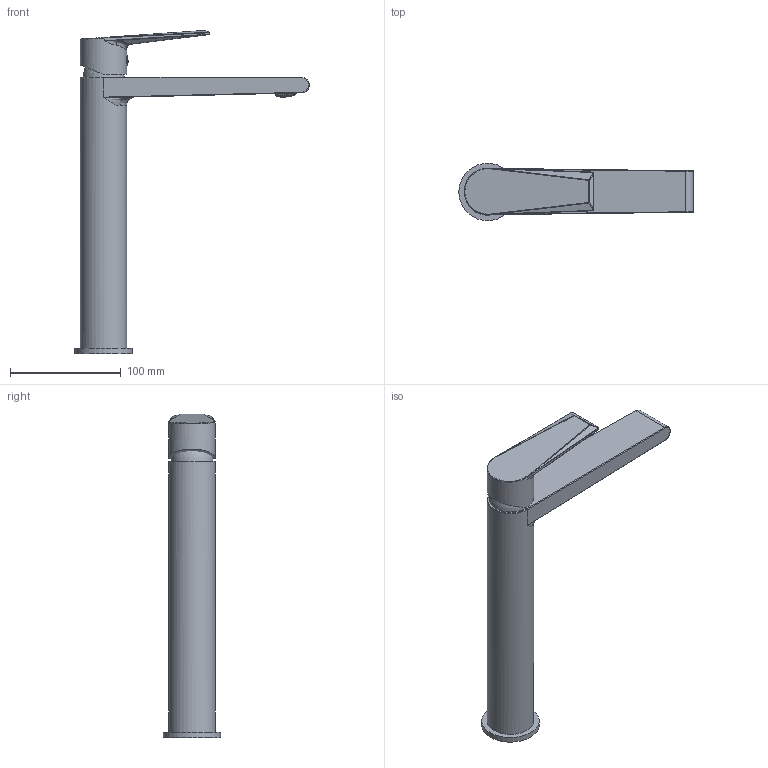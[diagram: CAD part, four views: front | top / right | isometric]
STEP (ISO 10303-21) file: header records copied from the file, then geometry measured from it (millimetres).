
FILE_DESCRIPTION(/* description */ (''),/* implementation_level */ '2;1');
FILE_NAME(/* name */ '高单孔.stp',/* time_stamp */ '2024-03-01T22:26:36+08:00',/* author */ (''),/* organization */ (''),/* preprocessor_version */ 'ST-DEVELOPER v16',/* originating_system */ 'SIEMENS PLM Software NX 10.0',/* authorisation */ '');
FILE_SCHEMA (('CONFIG_CONTROL_DESIGN'));
Length unit declared in the file: millimetre
Products named in the file (1): 高单孔
Bounding box: 212 x 52 x 292.37 mm (x, y, z)
Volume: 532678.2 mm3; surface area: 78959.2 mm2
Topology: 6 solids, 6 shells, 1281 faces, 3279 edges, 2158 vertices
Faces by surface type: plane 1146, cylinder 76, bspline 34, cone 13, sphere 8, torus 2, revolution 2
Full cylindrical faces by diameter (mm): 8.9 x1, 42 x2, 52 x1
Entity records: 39613 total; most frequent: CARTESIAN_POINT 7482, DIRECTION 6934, ORIENTED_EDGE 6524, EDGE_CURVE 3262, AXIS2_PLACEMENT_3D 2454, VERTEX_POINT 2155, LINE 2024, VECTOR 2024
